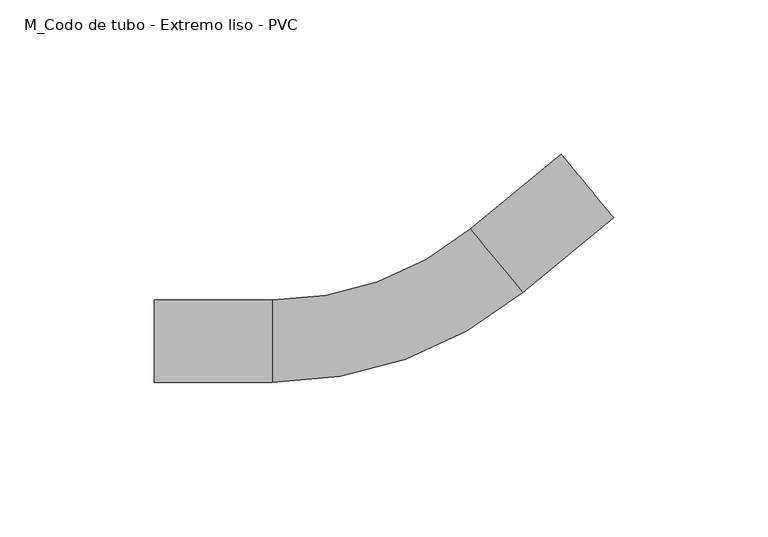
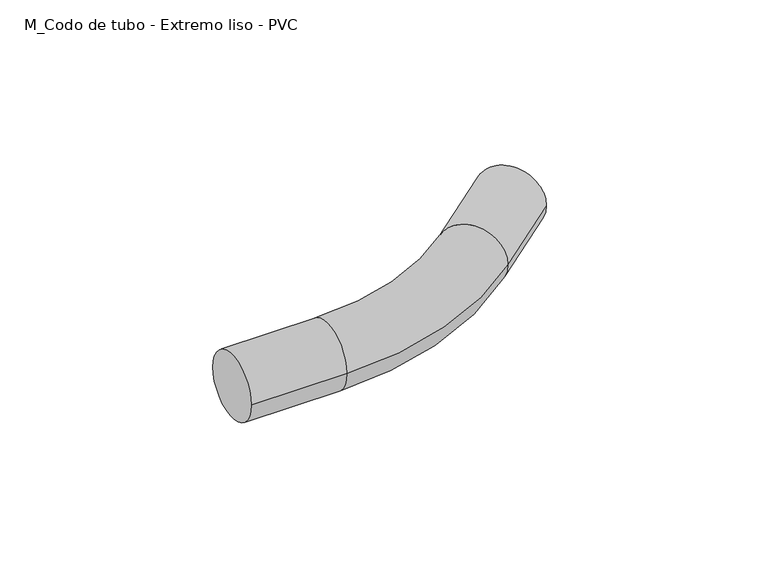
"""IFC4 building model written with IfcOpenShell, lengths in millimetres: cable carrier fitting geometry, M_Codo de tubo - Extremo liso - PVC : CODO ILUMINACION."""

from ifc_helpers import new_model, si_unit, point, frame, origin, place, context, project, spatial, circle_curve, ellipse_curve, trimmed, source, transform, mapped, element, save
from ifc_brep_helpers import plane_surface, cylinder_surface, revolved_surface, advanced_brep


def m_codo_de_tubo_extremo_liso_pvc_18a5b87b(model_context):
    return source(origin(), model_context, "Body", "AdvancedBrep", [
        advanced_brep(
        [(-79.1334422, -13.335, 0.0), (-79.1334422, 13.335, 0.0), (-41.0334422, -13.335, 0.0), (-41.0334422, 13.335, 0.0), (23.1828202, 36.3884933, 0.0), (40.1456065, 15.8080954, 0.0), (69.5461751, 40.0406472, 0.0), (52.5833888, 60.6210452, 0.0)],
        [
            (0, 1, circle_curve(frame((-79.1334422, 0.0, 0.0), z_axis=(-1.0, 0.0, 0.0), x_axis=(0.0, 1.0, 0.0)), 13.335)),
            (1, 0, circle_curve(frame((-79.1334422, 0.0, 0.0), z_axis=(-1.0, 0.0, 0.0), x_axis=(0.0, 1.0, 0.0)), 13.335)),
            (0, 2),
            (2, 3, circle_curve(frame((-41.0334422, 0.0, 0.0), z_axis=(-1.0, 0.0, 0.0), x_axis=(0.0, 1.0, 0.0)), 13.335)),
            (3, 1),
            (3, 2, circle_curve(frame((-41.0334422, 0.0, 0.0), z_axis=(-1.0, 0.0, 0.0), x_axis=(0.0, 1.0, 0.0)), 13.335)),
            (4, 3, circle_curve(frame((-41.0334422, 114.3, 0.0), z_axis=(0.0, 0.0, -1.0), x_axis=(0.0, -1.0, 0.0)), 100.965)),
            (2, 5, circle_curve(frame((-41.0334422, 114.3, 0.0), z_axis=(0.0, 0.0, 1.0), x_axis=(0.0, -1.0, 0.0)), 127.635)),
            (5, 4, circle_curve(frame((31.6642134, 26.0982944, 0.0), z_axis=(-0.77166846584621, -0.6360249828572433, 0.0), x_axis=(-0.6360249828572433, 0.77166846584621, 0.0)), 13.335)),
            (4, 5, circle_curve(frame((31.6642134, 26.0982944, 0.0), z_axis=(-0.7716684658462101, -0.6360249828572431, 0.0), x_axis=(-0.6360249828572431, 0.7716684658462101, 0.0)), 13.335)),
            (6, 7, circle_curve(frame((61.0647819, 50.3308462, 0.0), z_axis=(0.7716684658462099, 0.6360249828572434, 0.0), x_axis=(-0.6360249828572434, 0.7716684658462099, 0.0)), 13.335)),
            (7, 6, circle_curve(frame((61.0647819, 50.3308462, 0.0), z_axis=(0.7716684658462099, 0.6360249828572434, 0.0), x_axis=(-0.6360249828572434, 0.7716684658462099, 0.0)), 13.335)),
            (5, 6),
            (7, 4),
        ],
        [
            plane_surface(frame((-79.1334422, 0.0, 0.0), z_axis=(-1.0, 0.0, 0.0), x_axis=(0.0, 0.0, 1.0))),
            cylinder_surface(frame((-79.1334422, 0.0, 0.0), z_axis=(-1.0, 0.0, 0.0), x_axis=(0.0, 1.0, 0.0)), 13.335),
            revolved_surface(trimmed(ellipse_curve(frame((-41.0334422, 0.0, 0.0), z_axis=(-1.0, 0.0, 0.0), x_axis=(0.0, 1.0, 0.0)), 13.335, 13.335), [point((-41.0334422, -13.335, 0.0))], [point((-41.0334422, 13.335, 0.0))], True, "CARTESIAN"), (-41.0334422, 114.3, 0.0), (0.0, 0.0, 1.0)),
            revolved_surface(trimmed(ellipse_curve(frame((-41.0334422, 0.0, 0.0), z_axis=(-1.0, 0.0, 0.0), x_axis=(0.0, 1.0, 0.0)), 13.335, 13.335), [point((-41.0334422, 13.335, 0.0))], [point((-41.0334422, -13.335, 0.0))], True, "CARTESIAN"), (-41.0334422, 114.3, 0.0), (0.0, 0.0, 1.0)),
            plane_surface(frame((61.0647819, 50.3308462, 0.0), z_axis=(0.77166846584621, 0.6360249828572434, 0.0), x_axis=(0.0, 0.0, 1.0))),
            cylinder_surface(frame((31.6642134, 26.0982944, 0.0), z_axis=(-0.7716684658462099, -0.6360249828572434, 0.0), x_axis=(-0.6360249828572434, 0.7716684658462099, 0.0)), 13.335),
        ],
        [
            (0, [[1, 2]]),
            (1, [[-1, 3, 4, 5]]),
            (1, [[-2, -5, 6, -3]]),
            (2, [[7, -4, 8, 9]]),
            (3, [[-8, -6, -7, 10]]),
            (4, [[11, 12]]),
            (5, [[-9, 13, -12, 14]]),
            (5, [[-10, -14, -11, -13]]),
        ],
    ),
    ])


if __name__ == "__main__":
    model = new_model("IFC4")
    model_context = context("Model", 3, world=origin())
    ifc_project = project(units=[si_unit("LENGTHUNIT", "METRE", prefix="MILLI")], contexts=[model_context])
    site = spatial("IfcSite", under=ifc_project)
    building = spatial("IfcBuilding", under=site)
    placement = place(None, origin())
    m_codo_de_tubo_extremo_liso_pvc_shape = m_codo_de_tubo_extremo_liso_pvc_18a5b87b(model_context)
    element("IfcCableCarrierFitting", 1, ObjectType="M_Codo de tubo - Extremo liso - PVC : CODO ILUMINACION", at=placement, inside=building, context=model_context, shape_type="MappedRepresentation", body=[
        mapped(m_codo_de_tubo_extremo_liso_pvc_shape, transform((0.0, 0.0, 0.0), x_axis=(1.0, 0.0, 0.0), y_axis=(0.0, 1.0, 0.0), z_axis=(0.0, 0.0, 1.0))),
    ])
    save(model, "model.ifc")
